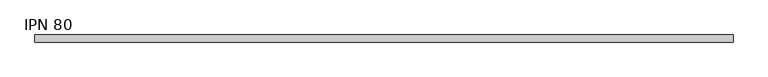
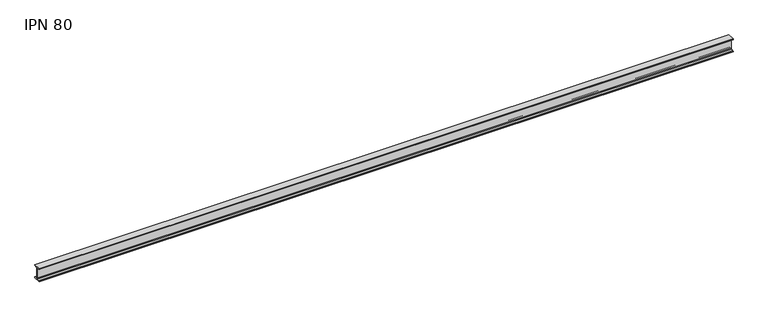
"""IFC4 building model written with IfcOpenShell, lengths in millimetres: beam geometry, IPN - Secciones en I con alas cónicas : IPN 80."""

import ifcopenshell
import ifcopenshell.guid

model = None  # the IFC model being written
_history = None  # IfcOwnerHistory: only IFC2X3 demands one
_inside = {}  # id of a spatial element -> (the spatial element, [elements in it])
_under = {}  # id of a project, library or spatial element -> (it, [spatial elements below it])
_declared = {}  # id of a project -> (the project, [libraries it declares])
_typed = {}  # id of a type object -> (the type object, [elements of that type])
_made_of = {}  # id of a material, layer set ... -> (it, [elements and type objects made of it])


def new_model(schema):
    """Start an empty IFC model of exactly this schema.

    Asked for "IFC4X3", IfcOpenShell would pick the latest addendum, in which some entities
    have other attributes; the version numbers below select the first issue.
    IFC2X3 requires an IfcOwnerHistory on every rooted entity: one is made here for all.
    """
    global model, _history
    if schema == "IFC4X3":
        model = ifcopenshell.file(schema_version=(4, 3, 0, 0))
    else:
        model = ifcopenshell.file(schema=schema)
    _inside.clear()
    _under.clear()
    _declared.clear()
    _typed.clear()
    _made_of.clear()
    _history = None
    if model.schema == "IFC2X3":
        org = make("IfcOrganization", Name="unknown")
        user = make(
            "IfcPersonAndOrganization",
            ThePerson=make("IfcPerson", FamilyName="unknown"),
            TheOrganization=org,
        )
        app = make(
            "IfcApplication",
            ApplicationDeveloper=org,
            Version="unknown",
            ApplicationFullName="unknown",
            ApplicationIdentifier="unknown",
        )
        _history = make(
            "IfcOwnerHistory",
            OwningUser=user,
            OwningApplication=app,
            ChangeAction="ADDED",
            CreationDate=0,
        )
    return model


def make(cls, **values):
    """One entity of the class cls with the attributes given. An attribute that is None is left unset."""
    return model.create_entity(
        cls, **{name: value for name, value in values.items() if value is not None}
    )


def rooted(cls, **values):
    """An entity with a GlobalId (a new one), such as an element, a storey or a relation."""
    return make(cls, GlobalId=ifcopenshell.guid.new(), OwnerHistory=_history, **values)


def si_unit(unit_type, name, prefix=None):
    """IfcSIUnit, for example si_unit("LENGTHUNIT", "METRE", prefix="MILLI")."""
    return make("IfcSIUnit", UnitType=unit_type, Prefix=prefix, Name=name)


def assignment(units):
    """IfcUnitAssignment: the units of a project."""
    return None if units is None else make("IfcUnitAssignment", Units=units)


def point(xyz):
    """IfcCartesianPoint."""
    return None if xyz is None else make("IfcCartesianPoint", Coordinates=xyz)


def direction(xyz):
    """IfcDirection."""
    return None if xyz is None else make("IfcDirection", DirectionRatios=xyz)


def frame(location, z_axis=None, x_axis=None):
    """IfcAxis2Placement3D, a coordinate frame: its origin and axes. An axis left out is left unset."""
    return make(
        "IfcAxis2Placement3D",
        Location=point(location),
        Axis=direction(z_axis),
        RefDirection=direction(x_axis),
    )


def frame_2d(location, x_axis=None):
    """IfcAxis2Placement2D, a coordinate frame in the plane: its origin and x axis."""
    return make(
        "IfcAxis2Placement2D", Location=point(location), RefDirection=direction(x_axis)
    )


def origin():
    """The frame at (0, 0, 0) with its axes left unset."""
    return frame((0.0, 0.0, 0.0))


def place(relative_to, where):
    """IfcLocalPlacement: puts the frame where relative to a parent placement (None: the world)."""
    return make(
        "IfcLocalPlacement", PlacementRelTo=relative_to, RelativePlacement=where
    )


def context(
    kind, dimensions, precision=None, world=None, true_north=None, identifier=None
):
    """IfcGeometricRepresentationContext, for example the 3D "Model" context."""
    return make(
        "IfcGeometricRepresentationContext",
        ContextIdentifier=identifier,
        ContextType=kind,
        CoordinateSpaceDimension=dimensions,
        Precision=precision,
        WorldCoordinateSystem=world,
        TrueNorth=true_north,
    )


def project(units=None, contexts=None):
    """IfcProject with its units and contexts."""
    return rooted(
        "IfcProject",
        Name="project",
        RepresentationContexts=contexts,
        UnitsInContext=assignment(units),
    )


def spatial(cls, under=None, at=None, **own):
    """A site, building, storey or space (cls), placed at a placement, below another one or the project."""
    s = rooted(cls, ObjectPlacement=at, **own)
    if under is not None:
        _under.setdefault(under.id(), (under, []))[1].append(s)
    return s


def polyline(points):
    """IfcPolyline through the points."""
    return make("IfcPolyline", Points=[point(p) for p in points])


def circle_curve(where, radius):
    """IfcCircle in the frame where."""
    return make("IfcCircle", Position=where, Radius=radius)


def trimmed(basis, trim1, trim2, sense, master):
    """IfcTrimmedCurve: the piece of a basis curve between two trims."""
    return make(
        "IfcTrimmedCurve",
        BasisCurve=basis,
        Trim1=trim1,
        Trim2=trim2,
        SenseAgreement=sense,
        MasterRepresentation=master,
    )


def segment(curve, same_sense, transition):
    """IfcCompositeCurveSegment."""
    return make(
        "IfcCompositeCurveSegment",
        Transition=transition,
        SameSense=same_sense,
        ParentCurve=curve,
    )


def composite_curve(segments, self_intersect=None):
    """IfcCompositeCurve: segments joined end to end."""
    return make("IfcCompositeCurve", Segments=segments, SelfIntersect=self_intersect)


def outline(outer, holes=None, kind="AREA"):
    """IfcArbitraryClosedProfileDef: a profile drawn as a closed curve; with holes, ...WithVoids."""
    if holes is None:
        return make("IfcArbitraryClosedProfileDef", ProfileType=kind, OuterCurve=outer)
    return make(
        "IfcArbitraryProfileDefWithVoids",
        ProfileType=kind,
        OuterCurve=outer,
        InnerCurves=holes,
    )


def extrude(swept, where, along, depth):
    """IfcExtrudedAreaSolid: the profile swept, set in the frame where, extruded along a direction by depth."""
    return make(
        "IfcExtrudedAreaSolid",
        SweptArea=swept,
        Position=where,
        ExtrudedDirection=direction(along),
        Depth=depth,
    )


def shape(context_of_items, identifier, shape_type, items):
    """IfcShapeRepresentation: the items that make up one representation, for example the "Body"."""
    return make(
        "IfcShapeRepresentation",
        ContextOfItems=context_of_items,
        RepresentationIdentifier=identifier,
        RepresentationType=shape_type,
        Items=items,
    )


def source(mapping_origin, context_of_items, identifier, shape_type, items):
    """IfcRepresentationMap: a shape defined once, which mapped items show again and again."""
    return make(
        "IfcRepresentationMap",
        MappingOrigin=mapping_origin,
        MappedRepresentation=shape(context_of_items, identifier, shape_type, items),
    )


def transform(
    local_origin,
    x_axis=None,
    y_axis=None,
    z_axis=None,
    scale=None,
    scale2=None,
    scale3=None,
    uniform=True,
):
    """IfcCartesianTransformationOperator3D, or its non-uniform kind. x_axis, y_axis, z_axis: its Axis1, 2, 3."""
    if uniform:
        return make(
            "IfcCartesianTransformationOperator3D",
            Axis1=direction(x_axis),
            Axis2=direction(y_axis),
            LocalOrigin=point(local_origin),
            Scale=scale,
            Axis3=direction(z_axis),
        )
    return make(
        "IfcCartesianTransformationOperator3DnonUniform",
        Axis1=direction(x_axis),
        Axis2=direction(y_axis),
        LocalOrigin=point(local_origin),
        Scale=scale,
        Axis3=direction(z_axis),
        Scale2=scale2,
        Scale3=scale3,
    )


def mapped(mapping_source, mapping_target):
    """IfcMappedItem: shows the shape of a source again, moved by a transform."""
    return make(
        "IfcMappedItem", MappingSource=mapping_source, MappingTarget=mapping_target
    )


def made_of(thing, what):
    """Note that an element or type object is made of a material, layer set ...; save() writes the relation."""
    if what is not None:
        _made_of.setdefault(what.id(), (what, []))[1].append(thing)
    return thing


def element(
    cls,
    number,
    at=None,
    inside=None,
    cuts=None,
    type_object=None,
    material=None,
    context=None,
    identifier="Body",
    shape_type=None,
    held_by="IfcProductDefinitionShape",
    body=None,
    shapes=None,
    **own,
):
    """One element of the class cls, such as IfcWall. Its Tag is "e" and its number.

    at: its placement. inside: the storey or other place that contains it. cuts: it is an
    opening in that element (IfcRelVoidsElement). A single representation is given by context,
    identifier, shape_type and body (its items); several are given by shapes. held_by: the class
    of the entity that holds the representations. save() writes the other relations.
    """
    e = rooted(cls, Tag="e%d" % number, ObjectPlacement=at, **own)
    if body is not None:
        shapes = [shape(context, identifier, shape_type, body)]
    if shapes is not None:
        e.Representation = make(held_by, Representations=shapes)
    if inside is not None:
        _inside.setdefault(inside.id(), (inside, []))[1].append(e)
    if cuts is not None:
        rooted(
            "IfcRelVoidsElement", RelatingBuildingElement=cuts, RelatedOpeningElement=e
        )
    if type_object is not None:
        _typed.setdefault(type_object.id(), (type_object, []))[1].append(e)
    return made_of(e, material)


def aggregate(whole, parts):
    """IfcRelAggregates: a whole, such as a stair, and the parts it consists of."""
    return rooted("IfcRelAggregates", RelatingObject=whole, RelatedObjects=parts)


def save(model, path):
    """Write the relations noted so far, then the file.

    IfcRelAggregates (storeys below a building ...), IfcRelContainedInSpatialStructure (elements
    in a storey), IfcRelDefinesByType, IfcRelAssociatesMaterial and IfcRelDeclares: one each for
    every whole, place, type object, material and project.
    """
    for whole, parts in _under.values():
        aggregate(whole, parts)
    for where, things in _inside.values():
        rooted(
            "IfcRelContainedInSpatialStructure",
            RelatedElements=things,
            RelatingStructure=where,
        )
    for kind, things in _typed.values():
        rooted("IfcRelDefinesByType", RelatedObjects=things, RelatingType=kind)
    for what, things in _made_of.values():
        rooted("IfcRelAssociatesMaterial", RelatedObjects=things, RelatingMaterial=what)
    for by, libraries in _declared.values():
        rooted("IfcRelDeclares", RelatingContext=by, RelatedDefinitions=libraries)
    model.write(path)


def ipn_80_12e77710(model_context):
    return source(origin(), model_context, "Body", "SweptSolid", [
        extrude(outline(composite_curve([segment(polyline([(21.0, 40.0), (21.0, 37.5704306)]), True, "CONTINUOUS"), segment(trimmed(circle_curve(frame_2d((18.7, 37.5704306)), 2.3), [point((21.0, 37.5704306))], [point((19.01889, 35.2926446))], False, "CARTESIAN"), True, "CONTINUOUS"), segment(polyline([(19.01889, 35.2926446), (5.3092734, 33.3732983)]), True, "CONTINUOUS"), segment(trimmed(circle_curve(frame_2d((5.85, 29.5109655)), 3.9), [point((5.3092734, 33.3732983))], [point((1.95, 29.5109655))], True, "CARTESIAN"), True, "CONTINUOUS"), segment(polyline([(1.95, 29.5109655), (1.95, -29.5109655)]), True, "CONTINUOUS"), segment(trimmed(circle_curve(frame_2d((5.85, -29.5109655)), 3.9), [point((1.95, -29.5109655))], [point((5.3092734, -33.3732983))], True, "CARTESIAN"), True, "CONTINUOUS"), segment(polyline([(5.3092734, -33.3732983), (19.01889, -35.2926446)]), True, "CONTINUOUS"), segment(trimmed(circle_curve(frame_2d((18.7, -37.5704306)), 2.3), [point((19.01889, -35.2926446))], [point((21.0, -37.5704306))], False, "CARTESIAN"), True, "CONTINUOUS"), segment(polyline([(21.0, -37.5704306), (21.0, -40.0), (-21.0, -40.0), (-21.0, -37.5704306)]), True, "CONTINUOUS"), segment(trimmed(circle_curve(frame_2d((-18.7, -37.5704306)), 2.3), [point((-21.0, -37.5704306))], [point((-19.01889, -35.2926446))], False, "CARTESIAN"), True, "CONTINUOUS"), segment(polyline([(-19.01889, -35.2926446), (-5.3092734, -33.3732983)]), True, "CONTINUOUS"), segment(trimmed(circle_curve(frame_2d((-5.85, -29.5109655)), 3.9), [point((-5.3092734, -33.3732983))], [point((-1.95, -29.5109655))], True, "CARTESIAN"), True, "CONTINUOUS"), segment(polyline([(-1.95, -29.5109655), (-1.95, 29.5109655)]), True, "CONTINUOUS"), segment(trimmed(circle_curve(frame_2d((-5.85, 29.5109655)), 3.9), [point((-1.95, 29.5109655))], [point((-5.3092734, 33.3732983))], True, "CARTESIAN"), True, "CONTINUOUS"), segment(polyline([(-5.3092734, 33.3732983), (-19.01889, 35.2926446)]), True, "CONTINUOUS"), segment(trimmed(circle_curve(frame_2d((-18.7, 37.5704306)), 2.3), [point((-19.01889, 35.2926446))], [point((-21.0, 37.5704306))], False, "CARTESIAN"), True, "CONTINUOUS"), segment(polyline([(-21.0, 37.5704306), (-21.0, 40.0), (21.0, 40.0)]), True, "CONTINUOUS")], self_intersect=False)), frame((-2055.85, 0.0, 0.0), z_axis=(1.0, 0.0, 0.0), x_axis=(0.0, 1.0, 0.0)), (0.0, 0.0, 1.0), 4112.85),
    ])


if __name__ == "__main__":
    model = new_model("IFC4")
    model_context = context("Model", 3, world=origin())
    ifc_project = project(units=[si_unit("LENGTHUNIT", "METRE", prefix="MILLI")], contexts=[model_context])
    site = spatial("IfcSite", under=ifc_project)
    building = spatial("IfcBuilding", under=site)
    placement = place(None, origin())
    ipn_80_shape = ipn_80_12e77710(model_context)
    element("IfcBeam", 1, ObjectType="IPN - Secciones en I con alas cónicas : IPN 80", at=placement, inside=building, context=model_context, shape_type="MappedRepresentation", body=[
        mapped(ipn_80_shape, transform((0.0, 0.0, 0.0), x_axis=(1.0, 0.0, 0.0), y_axis=(0.0, 1.0, 0.0), z_axis=(0.0, 0.0, 1.0))),
    ])
    save(model, "model.ifc")
